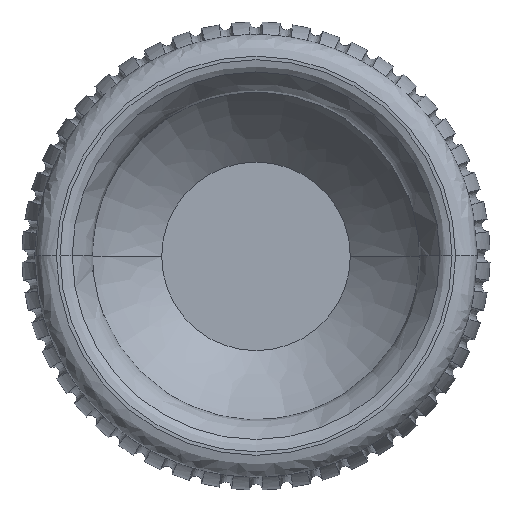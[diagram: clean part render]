
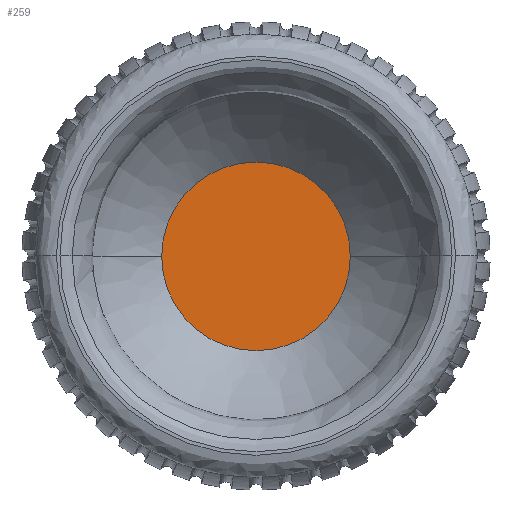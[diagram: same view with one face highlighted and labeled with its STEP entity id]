
A CAD part, top view. The second image highlights one B-rep face of the part: STEP entity #259.
In plain terms, the highlighted planar face has unit normal (0, 0, 1).
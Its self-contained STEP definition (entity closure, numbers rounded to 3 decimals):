
#259=ADVANCED_FACE('',(#464),#3077,.T.);
#464=FACE_OUTER_BOUND('',#693,.T.);
#693=EDGE_LOOP('',(#1494,#1495));
#1494=ORIENTED_EDGE('',*,*,#2082,.T.);
#1495=ORIENTED_EDGE('',*,*,#2100,.T.);
#2082=EDGE_CURVE('',#3063,#3073,#2550,.T.);
#2100=EDGE_CURVE('',#3073,#3063,#2560,.T.);
#2550=TRIMMED_CURVE($,#2758,(#30352),(#30353),.T.,.CARTESIAN.);
#2560=TRIMMED_CURVE($,#2768,(#30563),(#30564),.T.,.CARTESIAN.);
#2758=CIRCLE('',#3566,75.161);
#2768=CIRCLE('',#3576,75.161);
#3063=VERTEX_POINT('',#19475);
#3073=VERTEX_POINT('',#19485);
#3077=PLANE('',#3370);
#3370=AXIS2_PLACEMENT_3D('',#18707,#3584,$);
#3566=AXIS2_PLACEMENT_3D($,#30351,#3975,#3976);
#3576=AXIS2_PLACEMENT_3D($,#30562,#3995,#3996);
#3584=DIRECTION('',(0.,0.,1.));
#3975=DIRECTION('',(0.,0.,1.));
#3976=DIRECTION('',(-1.,0.,0.));
#3995=DIRECTION('',(0.,0.,1.));
#3996=DIRECTION('',(1.,0.,0.));
#18707=CARTESIAN_POINT('',(-76.664,-76.664,26.669));
#19475=CARTESIAN_POINT('',(-75.161,0.,26.669));
#19485=CARTESIAN_POINT('',(75.161,0.,26.669));
#30351=CARTESIAN_POINT('',(0.,0.,26.669));
#30352=CARTESIAN_POINT('',(-75.161,0.,26.669));
#30353=CARTESIAN_POINT('',(75.161,0.,26.669));
#30562=CARTESIAN_POINT('',(0.,0.,26.669));
#30563=CARTESIAN_POINT('',(75.161,0.,26.669));
#30564=CARTESIAN_POINT('',(-75.161,0.,26.669));
